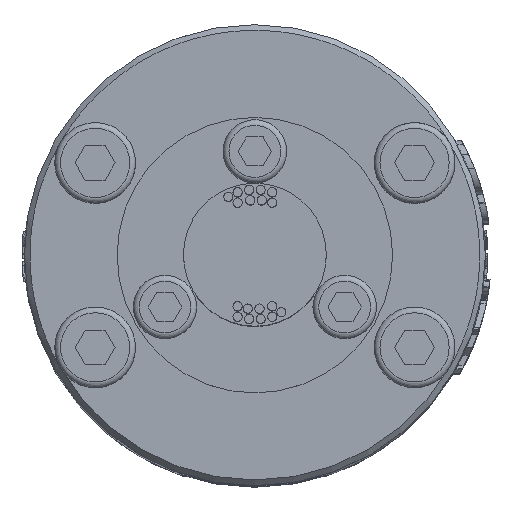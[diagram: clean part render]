
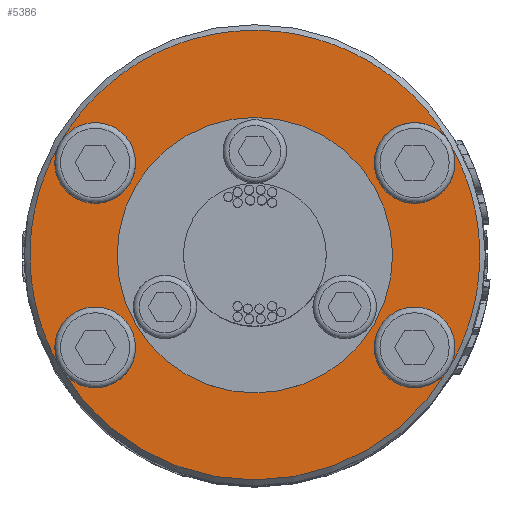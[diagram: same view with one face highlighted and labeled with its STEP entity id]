
A CAD part, top view. The second image highlights one B-rep face of the part: STEP entity #5386.
In plain terms, the highlighted planar face has unit normal (0, 0, 1).
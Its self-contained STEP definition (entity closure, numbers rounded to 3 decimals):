
#662=FACE_BOUND('',#9057,.T.);
#663=FACE_BOUND('',#9058,.T.);
#1080=CIRCLE('',#26618,11.95);
#1092=CIRCLE('',#26650,3.5);
#1095=CIRCLE('',#26663,3.5);
#1098=CIRCLE('',#26676,3.5);
#1101=CIRCLE('',#26689,3.5);
#1103=CIRCLE('',#26701,19.5);
#1104=CIRCLE('',#26702,19.5);
#1105=CIRCLE('',#26703,19.5);
#1106=CIRCLE('',#26704,19.5);
#5386=ADVANCED_FACE('',(#662,#663),#6112,.T.);
#6112=PLANE('',#26708);
#9057=EDGE_LOOP('',(#16348,#16349,#16350,#16351,#16352,#16353,#16354,#16355));
#9058=EDGE_LOOP('',(#16356));
#16348=ORIENTED_EDGE('',*,*,#22591,.T.);
#16349=ORIENTED_EDGE('',*,*,#22512,.F.);
#16350=ORIENTED_EDGE('',*,*,#22590,.T.);
#16351=ORIENTED_EDGE('',*,*,#22575,.F.);
#16352=ORIENTED_EDGE('',*,*,#22589,.T.);
#16353=ORIENTED_EDGE('',*,*,#22554,.F.);
#16354=ORIENTED_EDGE('',*,*,#22592,.T.);
#16355=ORIENTED_EDGE('',*,*,#22533,.F.);
#16356=ORIENTED_EDGE('',*,*,#22494,.F.);
#18900=VERTEX_POINT('',#51780);
#18918=VERTEX_POINT('',#51836);
#18933=VERTEX_POINT('',#51882);
#18948=VERTEX_POINT('',#51928);
#18963=VERTEX_POINT('',#51974);
#22494=EDGE_CURVE('',#18900,#18900,#1080,.T.);
#22512=EDGE_CURVE('',#18918,#18918,#1092,.T.);
#22533=EDGE_CURVE('',#18933,#18933,#1095,.T.);
#22554=EDGE_CURVE('',#18948,#18948,#1098,.T.);
#22575=EDGE_CURVE('',#18963,#18963,#1101,.T.);
#22589=EDGE_CURVE('',#18963,#18948,#1103,.T.);
#22590=EDGE_CURVE('',#18918,#18963,#1104,.T.);
#22591=EDGE_CURVE('',#18933,#18918,#1105,.T.);
#22592=EDGE_CURVE('',#18948,#18933,#1106,.T.);
#26618=AXIS2_PLACEMENT_3D('',#51779,#30348,#30349);
#26650=AXIS2_PLACEMENT_3D('',#51835,#30418,#30419);
#26663=AXIS2_PLACEMENT_3D('',#51881,#30462,#30463);
#26676=AXIS2_PLACEMENT_3D('',#51927,#30506,#30507);
#26689=AXIS2_PLACEMENT_3D('',#51973,#30550,#30551);
#26701=AXIS2_PLACEMENT_3D('',#52005,#30586,#30587);
#26702=AXIS2_PLACEMENT_3D('',#52006,#30588,#30589);
#26703=AXIS2_PLACEMENT_3D('',#52007,#30590,#30591);
#26704=AXIS2_PLACEMENT_3D('',#52008,#30592,#30593);
#26708=AXIS2_PLACEMENT_3D('',#52013,#30600,#30601);
#30348=DIRECTION('',(0.,0.,1.));
#30349=DIRECTION('',(0.,1.,0.));
#30418=DIRECTION('',(0.,0.,1.));
#30419=DIRECTION('',(1.,0.,0.));
#30462=DIRECTION('',(0.,0.,1.));
#30463=DIRECTION('',(1.,0.,0.));
#30506=DIRECTION('',(0.,0.,1.));
#30507=DIRECTION('',(1.,0.,0.));
#30550=DIRECTION('',(0.,0.,1.));
#30551=DIRECTION('',(1.,0.,0.));
#30586=DIRECTION('',(0.,0.,1.));
#30587=DIRECTION('',(1.,0.,0.));
#30588=DIRECTION('',(0.,0.,1.));
#30589=DIRECTION('',(1.,0.,0.));
#30590=DIRECTION('',(0.,0.,1.));
#30591=DIRECTION('',(1.,0.,0.));
#30592=DIRECTION('',(0.,0.,1.));
#30593=DIRECTION('',(1.,0.,0.));
#30600=DIRECTION('',(0.,0.,1.));
#30601=DIRECTION('',(1.,0.,0.));
#51779=CARTESIAN_POINT('',(0.,0.,94.));
#51780=CARTESIAN_POINT('',(0.,11.95,94.));
#51835=CARTESIAN_POINT('',(13.856,8.,94.));
#51836=CARTESIAN_POINT('',(16.887,9.75,94.));
#51881=CARTESIAN_POINT('',(13.856,-8.,94.));
#51882=CARTESIAN_POINT('',(16.887,-9.75,94.));
#51927=CARTESIAN_POINT('',(-13.856,-8.,94.));
#51928=CARTESIAN_POINT('',(-16.887,-9.75,94.));
#51973=CARTESIAN_POINT('',(-13.856,8.,94.));
#51974=CARTESIAN_POINT('',(-16.887,9.75,94.));
#52005=CARTESIAN_POINT('',(0.,0.,94.));
#52006=CARTESIAN_POINT('',(0.,0.,94.));
#52007=CARTESIAN_POINT('',(0.,0.,94.));
#52008=CARTESIAN_POINT('',(0.,0.,94.));
#52013=CARTESIAN_POINT('',(0.,0.,94.));
